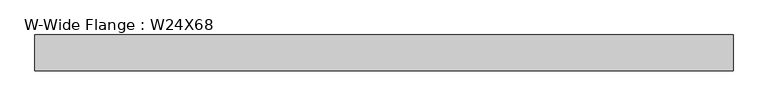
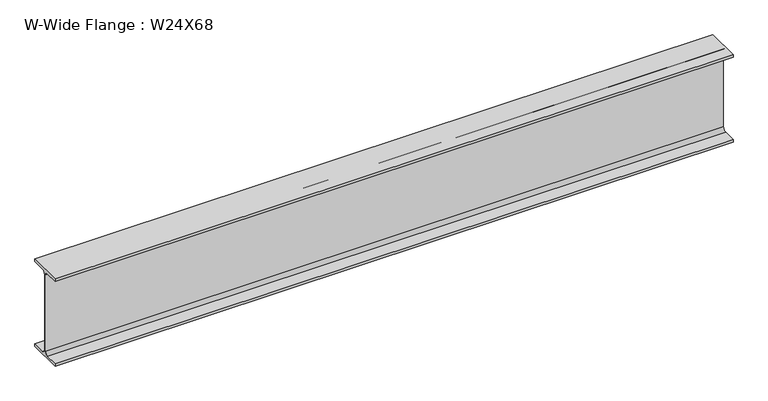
"""IFC4 building model written with IfcOpenShell, lengths in millimetres: beam geometry, W-Wide Flange : W24X68."""

from ifc_helpers import new_model, si_unit, point, frame, frame_2d, origin, place, context, project, spatial, polyline, circle_curve, trimmed, segment, composite_curve, outline, extrude, source, transform, mapped, element, save


def w_wide_flange_w24x68_f334fff9(model_context):
    return source(origin(), model_context, "Body", "SweptSolid", [
        extrude(outline(composite_curve([segment(polyline([(113.919, -286.131), (113.919, -300.99), (-113.919, -300.99), (-113.919, -286.131), (-28.5115, -286.131)]), True, "CONTINUOUS"), segment(trimmed(circle_curve(frame_2d((-28.5115, -262.89)), 23.241), [point((-28.5115, -286.131))], [point((-5.2705, -262.89))], True, "CARTESIAN"), True, "CONTINUOUS"), segment(polyline([(-5.2705, -262.89), (-5.2705, 262.89)]), True, "CONTINUOUS"), segment(trimmed(circle_curve(frame_2d((-28.5115, 262.89)), 23.241), [point((-5.2705, 262.89))], [point((-28.5115, 286.131))], True, "CARTESIAN"), True, "CONTINUOUS"), segment(polyline([(-28.5115, 286.131), (-113.919, 286.131), (-113.919, 300.99), (113.919, 300.99), (113.919, 286.131), (28.5115, 286.131)]), True, "CONTINUOUS"), segment(trimmed(circle_curve(frame_2d((28.5115, 262.89)), 23.241), [point((28.5115, 286.131))], [point((5.2705, 262.89))], True, "CARTESIAN"), True, "CONTINUOUS"), segment(polyline([(5.2705, 262.89), (5.2705, -262.89)]), True, "CONTINUOUS"), segment(trimmed(circle_curve(frame_2d((28.5115, -262.89)), 23.241), [point((5.2705, -262.89))], [point((28.5115, -286.131))], True, "CARTESIAN"), True, "CONTINUOUS"), segment(polyline([(28.5115, -286.131), (113.919, -286.131)]), True, "CONTINUOUS")], self_intersect=False)), frame((-2215.3792363, 0.0, 0.0), z_axis=(1.0, 0.0, 0.0), x_axis=(0.0, 1.0, 0.0)), (0.0, 0.0, 1.0), 4432.3),
    ])


if __name__ == "__main__":
    model = new_model("IFC4")
    model_context = context("Model", 3, world=origin())
    ifc_project = project(units=[si_unit("LENGTHUNIT", "METRE", prefix="MILLI")], contexts=[model_context])
    site = spatial("IfcSite", under=ifc_project)
    building = spatial("IfcBuilding", under=site)
    placement = place(None, origin())
    w_wide_flange_w24x68_shape = w_wide_flange_w24x68_f334fff9(model_context)
    element("IfcBeam", 1, ObjectType="W-Wide Flange : W24X68", at=placement, inside=building, context=model_context, shape_type="MappedRepresentation", body=[
        mapped(w_wide_flange_w24x68_shape, transform((0.0, 0.0, 0.0), x_axis=(1.0, 0.0, 0.0), y_axis=(0.0, 1.0, 0.0), z_axis=(0.0, 0.0, 1.0))),
    ])
    save(model, "model.ifc")
